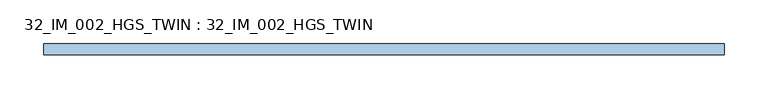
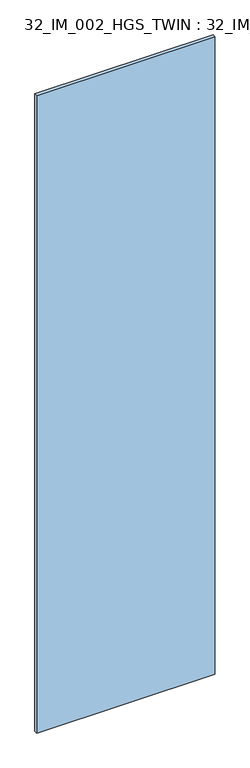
"""IFC4 building model written with IfcOpenShell, lengths in millimetres: window geometry, 32_IM_002_HGS_TWIN : 32_IM_002_HGS_TWIN."""

from ifc_helpers import new_model, si_unit, origin, origin_with_axes, place, context, project, spatial, polyline, outline, extrude, source, transform, mapped, element, save


def window_32_im_002_hgs_twin_32_im_002_hgs_twin_58e16ffb(model_context):
    return source(origin(), model_context, "Body", "SweptSolid", [
        extrude(outline(polyline([(390.7548433, 6.4), (390.7548433, -6.4), (-390.7548433, -6.4), (-390.7548433, 6.4), (390.7548433, 6.4)])), origin_with_axes(), (0.0, 0.0, 1.0), 2956.0),
    ])


if __name__ == "__main__":
    model = new_model("IFC4")
    model_context = context("Model", 3, world=origin())
    ifc_project = project(units=[si_unit("LENGTHUNIT", "METRE", prefix="MILLI")], contexts=[model_context])
    site = spatial("IfcSite", under=ifc_project)
    building = spatial("IfcBuilding", under=site)
    placement = place(None, origin())
    window_32_im_002_hgs_twin_32_im_002_hgs_twin_shape = window_32_im_002_hgs_twin_32_im_002_hgs_twin_58e16ffb(model_context)
    element("IfcWindow", 1, ObjectType="32_IM_002_HGS_TWIN : 32_IM_002_HGS_TWIN", at=placement, inside=building, context=model_context, shape_type="MappedRepresentation", body=[
        mapped(window_32_im_002_hgs_twin_32_im_002_hgs_twin_shape, transform((0.0, 0.0, 0.0), x_axis=(1.0, 0.0, 0.0), y_axis=(0.0, 1.0, 0.0), z_axis=(0.0, 0.0, 1.0))),
    ])
    save(model, "model.ifc")
